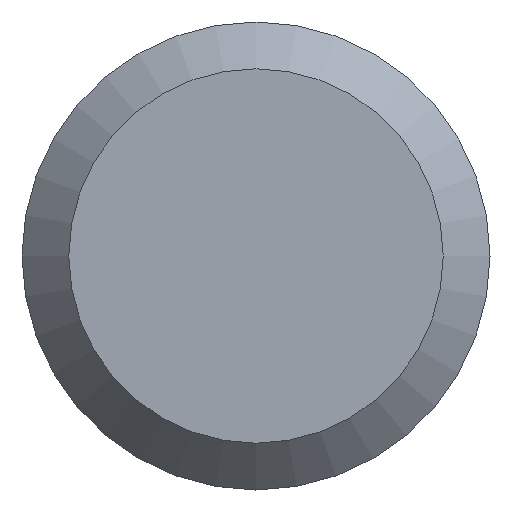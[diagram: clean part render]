
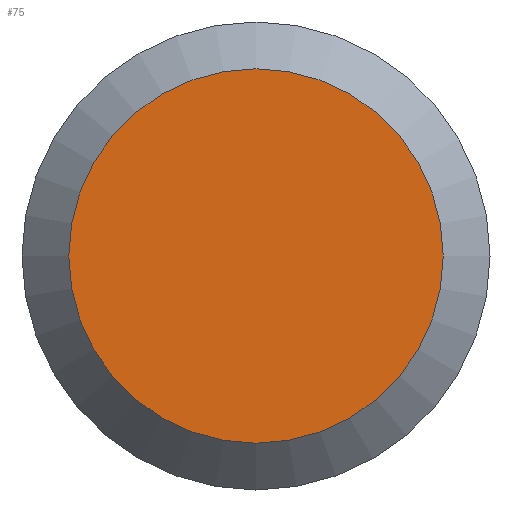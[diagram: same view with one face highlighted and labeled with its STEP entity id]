
A CAD part, left-side view. The second image highlights one B-rep face of the part: STEP entity #75.
In plain terms, the highlighted planar face has unit normal (-1, 0, 0).
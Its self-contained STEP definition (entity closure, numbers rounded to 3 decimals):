
#45 = AXIS2_PLACEMENT_3D ( 'NONE', #177, #160, #134 ) ;
#49 = DIRECTION ( 'NONE',  ( -1., 0., 0. ) ) ;
#53 = FACE_OUTER_BOUND ( 'NONE', #88, .T. ) ;
#54 = CARTESIAN_POINT ( 'NONE',  ( 0., 0., -3.81 ) ) ;
#75 = ADVANCED_FACE ( 'NONE', ( #53 ), #158, .F. ) ;
#80 = CIRCLE ( 'NONE', #188, 3.81 ) ;
#88 = EDGE_LOOP ( 'NONE', ( #105 ) ) ;
#105 = ORIENTED_EDGE ( 'NONE', *, *, #127, .T. ) ;
#127 = EDGE_CURVE ( 'NONE', #187, #187, #80, .T. ) ;
#134 = DIRECTION ( 'NONE',  ( 0., 0., -1. ) ) ;
#138 = DIRECTION ( 'NONE',  ( 0., 0., -1. ) ) ;
#158 = PLANE ( 'NONE',  #45 ) ;
#160 = DIRECTION ( 'NONE',  ( 1., 0., 0. ) ) ;
#177 = CARTESIAN_POINT ( 'NONE',  ( 0., 4.762, 0. ) ) ;
#180 = CARTESIAN_POINT ( 'NONE',  ( 0., 0., 0. ) ) ;
#187 = VERTEX_POINT ( 'NONE', #54 ) ;
#188 = AXIS2_PLACEMENT_3D ( 'NONE', #180, #49, #138 ) ;
